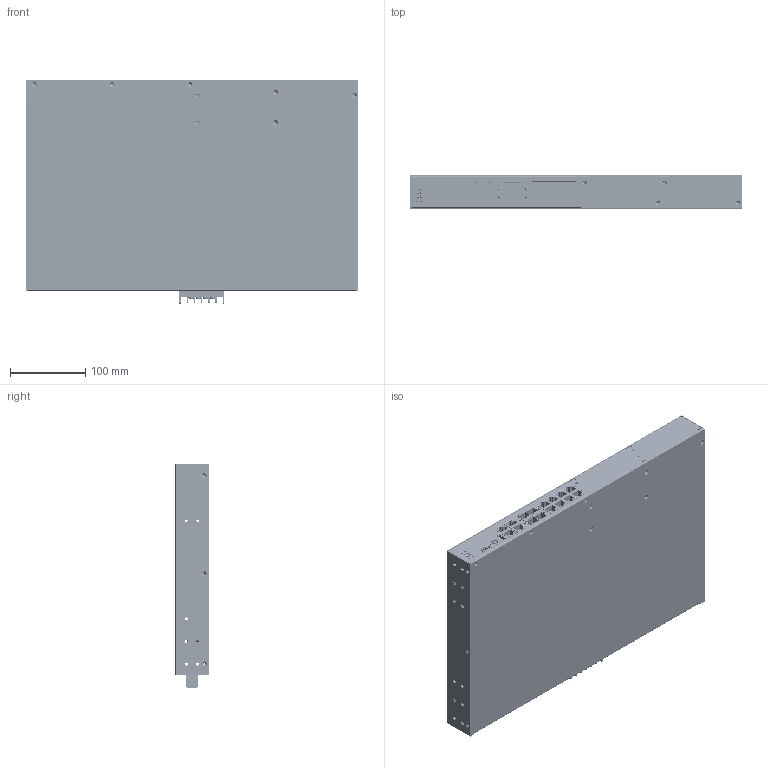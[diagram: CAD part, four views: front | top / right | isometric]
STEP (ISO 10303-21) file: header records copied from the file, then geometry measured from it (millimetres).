
FILE_DESCRIPTION((''),'2;1');
FILE_NAME('IKS-6728-8POE-4GTXSFP-48T','2013-06-22T',('Vincent_Huang'),(''),'PRO/ENGINEER BY PARAMETRIC TECHNOLOGY CORPORATION, 2004320','PRO/ENGINEER BY PARAMETRIC TECHNOLOGY CORPORATION, 2004320','');
FILE_SCHEMA(('CONFIG_CONTROL_DESIGN'));
Products named in the file (1): IKS-6728-8POE-4GTXSFP-48T
Bounding box: 440.2 x 44 x 296.8 mm (x, y, z)
Surface area: 1126023.1 mm2 (no closed solid volume)
Topology: 0 solids, 159 shells, 6006 faces, 14568 edges, 9322 vertices
Faces by surface type: plane 3673, cylinder 1669, cone 540, torus 84, bspline 32, extrusion 8
Entity records: 176522 total; most frequent: CARTESIAN_POINT 32212, DIRECTION 30758, ORIENTED_EDGE 28684, EDGE_CURVE 14452, AXIS2_PLACEMENT_3D 10588, VECTOR 9582, LINE 9574, VERTEX_POINT 9322
